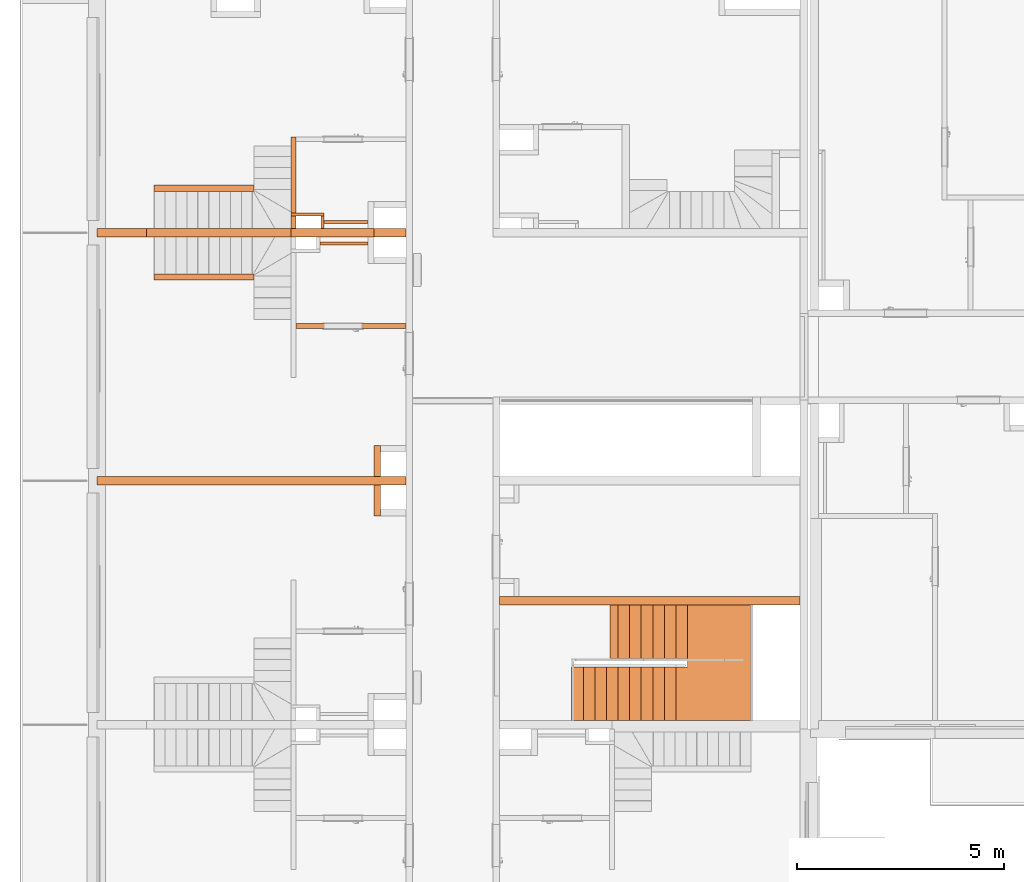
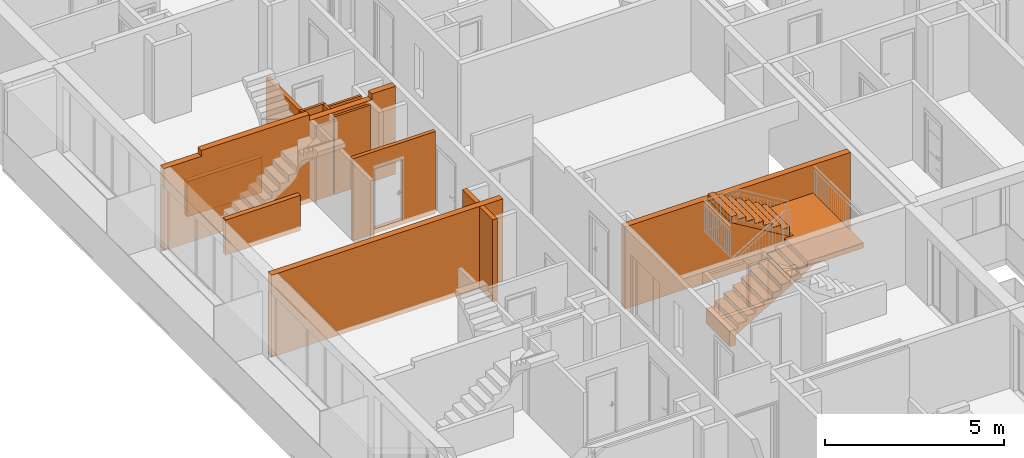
# One storey, part 48 of 61: 14 proxies, 1 opening.
"""IFC2X3 building model written with IfcOpenShell, lengths in millimetres."""

from ifc_helpers import new_model, entity, si_unit, converted_unit, derived_unit, money_unit, direction, frame, origin_with_axes, origin_2d_with_axis, place, context, subcontext, project, spatial, rectangle, extrude, faceted_brep, material, material_list, type_object, element, save


model = new_model("IFC2X3")

# Units and contexts
model_context = context("Model", 3, precision=0.01, world=origin_with_axes(), true_north=direction((0.34421633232, 0.938890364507)))
body_context = subcontext(model_context, "Body", "Model", "MODEL_VIEW")
ifc_project = project(units=[si_unit("LENGTHUNIT", "METRE", prefix="MILLI"), si_unit("AREAUNIT", "SQUARE_METRE"), si_unit("VOLUMEUNIT", "CUBIC_METRE"), converted_unit("PLANEANGLEUNIT", "DEGREE", entity("IfcPlaneAngleMeasure", 0.0174532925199), si_unit("PLANEANGLEUNIT", "RADIAN"), dimensions=[0, 0, 0, 0, 0, 0, 0]), si_unit("SOLIDANGLEUNIT", "STERADIAN"), money_unit("USD"), converted_unit("TIMEUNIT", "Year", entity("IfcTimeMeasure", 31556926.0), si_unit("TIMEUNIT", "SECOND"), dimensions=[0, 0, 1, 0, 0, 0, 0]), si_unit("MASSUNIT", "GRAM", prefix="KILO"), si_unit("THERMODYNAMICTEMPERATUREUNIT", "DEGREE_CELSIUS"), si_unit("LUMINOUSINTENSITYUNIT", "LUMEN"), si_unit("ENERGYUNIT", "JOULE", prefix="MEGA"), derived_unit("THERMALCONDUCTANCEUNIT", [(si_unit("POWERUNIT", "WATT"), 1), (si_unit("LENGTHUNIT", "METRE"), -1), (si_unit("THERMODYNAMICTEMPERATUREUNIT", "KELVIN"), -1)]), derived_unit("SPECIFICHEATCAPACITYUNIT", [(si_unit("ENERGYUNIT", "JOULE"), 1), (si_unit("MASSUNIT", "GRAM", prefix="KILO"), -1), (si_unit("THERMODYNAMICTEMPERATUREUNIT", "KELVIN"), -1)]), derived_unit("MASSDENSITYUNIT", [(si_unit("MASSUNIT", "GRAM", prefix="KILO"), 1), (si_unit("VOLUMEUNIT", "CUBIC_METRE"), -1)])], contexts=[model_context])

# Site, building, storey
site_placement = place(None, origin_with_axes())
site = spatial("IfcSite", under=ifc_project, at=site_placement, Name="USTRONIE MORSKIE", CompositionType="ELEMENT")
building_placement = place(site_placement, origin_with_axes())
building = spatial("IfcBuilding", under=site, at=building_placement, Name="Budynek", CompositionType="ELEMENT")
storey_placement = place(building_placement, frame((0.0, 0.0, 13000.0), z_axis=(0.0, 0.0, 1.0), x_axis=(1.0, 0.0, 0.0)))
storey = spatial("IfcBuildingStorey", under=building, at=storey_placement, Name="PIĘTRO 4", CompositionType="ELEMENT", Elevation=13000.0)

# Proxy, opening
ifc_material_1 = material(Name="Bloczki silikatowe")
building_element_proxy_type_1 = type_object("IfcBuildingElementProxyType", Name="Bloczki silikatowe 120", PredefinedType="NOTDEFINED")
proxy_1_placement = place(storey_placement, frame((354717.920919, 736541.179047, -160.0), z_axis=(0.0, 0.0, 1.0), x_axis=(1.0, 0.0, 0.0)))
proxy_1 = element("IfcBuildingElementProxy", 1, at=proxy_1_placement, inside=storey, type_object=building_element_proxy_type_1, material=ifc_material_1, Name="SW-04", context=body_context, shape_type="Brep", body=[
    faceted_brep([(2720.0, -59.9999999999, 2800.0), (2720.0, 59.9999999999, 2800.0), (60.0, 59.9999999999, 2800.0), (60.0, -59.9999999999, 2800.0), (2720.0, -59.9999999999, 0.0), (2720.0, 59.9999999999, 0.0), (60.0, 59.9999999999, 0.0), (60.0, -59.9999999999, 0.0)], [[[0, 1, 2, 3]], [[1, 0, 4, 5]], [[1, 5, 6, 2]], [[7, 3, 2, 6]], [[4, 0, 3, 7]], [[5, 4, 7, 6]]]),
])
opening_placement = place(proxy_1_placement, frame((1200.0, 0.0, 160.0), z_axis=(0.0, 0.0, 1.0), x_axis=(1.0, 0.0, 0.0)))
element("IfcOpeningElement", 2, at=opening_placement, cuts=proxy_1, Name="Dw.4", context=body_context, shape_type="SweptSolid", body=[
    extrude(rectangle(XDim=920.0, YDim=2070.0, at=origin_2d_with_axis()), frame((0.0, 120.0, 1035.0), z_axis=(0.0, -1.0, 0.0), x_axis=(-1.0, 0.0, 0.0)), (0.0, 0.0, 1.0), 360.0),
    extrude(rectangle(XDim=994.0, YDim=2177.0, at=origin_2d_with_axis()), frame((0.0, 60.0000000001, 1088.5), z_axis=(0.0, -1.0, 0.0), x_axis=(-1.0, 0.0, 0.0)), (0.0, 0.0, -1.0), 120.0),
    extrude(rectangle(XDim=994.0, YDim=2177.0, at=origin_2d_with_axis()), frame((0.0, -59.9999999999, 1088.5), z_axis=(0.0, 1.0, 0.0), x_axis=(-1.0, 0.0, 0.0)), (0.0, 0.0, -1.0), 120.0),
])

# Proxies
proxy_2_placement = place(storey_placement, frame((354717.920919, 738801.202062, -160.0), z_axis=(0.0, 0.0, 1.0), x_axis=(0.0, 1.0, 0.0)))
element("IfcBuildingElementProxy", 3, at=proxy_2_placement, inside=storey, type_object=building_element_proxy_type_1, material=ifc_material_1, Name="SW-04", context=body_context, shape_type="Brep", body=[
    faceted_brep([(399.997456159, 60.0, 0.0), (399.999903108, 60.0, 2800.0), (399.999903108, -60.0, 2800.0), (399.997456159, -60.0, 0.0), (100.000096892, 60.0, 0.0), (100.000096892, 60.0, 2800.0), (99.999903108, -60.0, 2800.0), (99.999903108, -60.0, 0.0)], [[[0, 1, 2, 3]], [[4, 5, 1, 0]], [[5, 6, 2, 1]], [[3, 2, 6, 7]], [[7, 4, 0, 3]], [[7, 6, 5, 4]]]),
    faceted_brep([(2320.01614335, 60.0, 2800.0), (2260.01614335, 60.0, 2800.0), (2260.01614335, -60.0, 2800.0), (2320.01614335, -60.0, 2800.0), (479.997456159, 60.0, 2800.0), (2100.00615581, 60.0, 2800.0), (2320.01614335, 60.0, 0.0), (479.997456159, 60.0, 0.0), (479.997456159, -60.0, 2800.0), (479.997456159, -60.0, 0.0), (2320.01614335, -60.0, 0.0)], [[[0, 1, 2, 3]], [[4, 5, 1, 0, 6, 7]], [[8, 2, 1, 5, 4]], [[3, 2, 8, 9, 10]], [[3, 10, 6, 0]], [[6, 10, 9, 7]], [[9, 8, 4, 7]]]),
])
ifc_material_2 = material(Name="Beton konstrukcyjny B25")
ifc_material_3 = material(Name="Płytki podłogowe")
ifc_material_list_1 = material_list([ifc_material_2, ifc_material_2, ifc_material_2, ifc_material_3, ifc_material_3, ifc_material_3, ifc_material_3, ifc_material_3, ifc_material_3, ifc_material_3, ifc_material_3, ifc_material_3, ifc_material_3, ifc_material_3, ifc_material_3, ifc_material_3, ifc_material_3, ifc_material_3, ifc_material_3])
building_element_proxy_type_2 = type_object("IfcBuildingElementProxyType", Name="Typ schodów", PredefinedType="NOTDEFINED")
proxy_3_placement = place(storey_placement, frame((362007.920919, 727001.199022, 0.0), z_axis=(0.0, 0.0, 1.0), x_axis=(1.0, 0.0, 0.0)))
element("IfcBuildingElementProxy", 4, at=proxy_3_placement, inside=storey, type_object=building_element_proxy_type_2, material=ifc_material_list_1, Name="SCH2", context=body_context, shape_type="Brep", body=[
    faceted_brep([(1960.0, 1300.0, 1491.17647059), (1680.0, 1300.0, 1491.17647059), (1680.0, 0.0, 1491.17647059), (1960.0, 0.0, 1491.17647059), (1960.0, 1300.0, 1498.52941176), (2206.20378654, 1300.0, 1498.52941176), (1960.0, 1300.0, 1351.37609817), (1866.66666667, 1300.0, 1295.59178444), (1773.33333333, 1300.0, 1239.80747072), (1680.0, 1300.0, 1184.02315699), (1586.66666667, 1300.0, 1128.23884327), (1493.33333333, 1300.0, 1072.45452954), (1400.0, 1300.0, 1016.67021582), (1306.66666667, 1300.0, 960.885902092), (1213.33333333, 1300.0, 905.101588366), (1120.0, 1300.0, 849.317274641), (1026.66666667, 1300.0, 793.532960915), (933.333333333, 1300.0, 737.74864719), (840.0, 1300.0, 681.964333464), (746.666666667, 1300.0, 626.180019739), (653.333333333, 1300.0, 570.395706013), (560.0, 1300.0, 514.611392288), (466.666666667, 1300.0, 458.827078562), (373.333333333, 1300.0, 403.042764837), (280.0, 1300.0, 347.258451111), (186.666666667, 1300.0, 291.474137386), (93.3333333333, 1300.0, 235.68982366), (0.0, 1300.0, 179.905509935), (-93.3333333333, 1300.0, 124.121196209), (-186.666666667, 1300.0, 68.3368824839), (-280.0, 1300.0, 12.5525687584), (-360.0, 1300.0, -35.2625572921), (-360.0, 1300.0, -360.0), (-560.0, 1300.0, -360.0), (-560.0, 1300.0, -154.800372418), (-560.0, 1300.0, 152.352941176), (-280.0, 1300.0, 152.352941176), (-280.0, 1300.0, 319.705882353), (0.0, 1300.0, 319.705882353), (0.0, 1300.0, 487.058823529), (280.0, 1300.0, 487.058823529), (280.0, 1300.0, 654.411764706), (560.0, 1300.0, 654.411764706), (560.0, 1300.0, 821.764705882), (840.0, 1300.0, 821.764705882), (840.0, 1300.0, 989.117647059), (1120.0, 1300.0, 989.117647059), (1120.0, 1300.0, 1156.47058824), (1400.0, 1300.0, 1156.47058824), (1400.0, 1300.0, 1323.82352941), (1680.0, 1300.0, 1323.82352941), (1680.0, 0.0, 1323.82352941), (1960.0, 0.0, 1351.37609817), (2206.20378654, 0.0, 1498.52941176), (1960.0, 0.0, 1498.52941176), (1400.0, 0.0, 1323.82352941), (1400.0, 0.0, 1156.47058824), (1120.0, 0.0, 1156.47058824), (1120.0, 0.0, 989.117647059), (840.0, 0.0, 989.117647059), (840.0, 0.0, 821.764705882), (560.0, 0.0, 821.764705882), (560.0, 0.0, 654.411764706), (280.0, 0.0, 654.411764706), (280.0, 0.0, 487.058823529), (0.0, 0.0, 487.058823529), (0.0, 0.0, 319.705882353), (-280.0, 0.0, 319.705882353), (-280.0, 0.0, 152.352941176), (-560.0, 0.0, 152.352941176), (-560.0, 0.0, -154.800372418), (-560.0, 0.0, -360.0), (-360.0, 0.0, -360.0), (-360.0, 0.0, -35.2625572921), (-280.0, 0.0, 12.5525687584), (-186.666666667, 0.0, 68.3368824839), (-93.3333333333, 0.0, 124.121196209), (0.0, 0.0, 179.905509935), (93.3333333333, 0.0, 235.68982366), (186.666666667, 0.0, 291.474137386), (280.0, 0.0, 347.258451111), (373.333333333, 0.0, 403.042764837), (466.666666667, 0.0, 458.827078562), (560.0, 0.0, 514.611392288), (653.333333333, 0.0, 570.395706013), (746.666666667, 0.0, 626.180019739), (840.0, 0.0, 681.964333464), (933.333333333, 0.0, 737.74864719), (1026.66666667, 0.0, 793.532960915), (1120.0, 0.0, 849.317274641), (1213.33333333, 0.0, 905.101588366), (1306.66666667, 0.0, 960.885902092), (1400.0, 0.0, 1016.67021582), (1493.33333333, 0.0, 1072.45452954), (1586.66666667, 0.0, 1128.23884327), (1680.0, 0.0, 1184.02315699), (1773.33333333, 0.0, 1239.80747072), (1866.66666667, 0.0, 1295.59178444)], [[[0, 1, 2, 3]], [[0, 4, 5, 6, 7, 8, 9, 10, 11, 12, 13, 14, 15, 16, 17, 18, 19, 20, 21, 22, 23, 24, 25, 26, 27, 28, 29, 30, 31, 32, 33, 34, 35, 36, 37, 38, 39, 40, 41, 42, 43, 44, 45, 46, 47, 48, 49, 50, 1]], [[50, 51, 2, 1]], [[52, 53, 54, 3, 2, 51, 55, 56, 57, 58, 59, 60, 61, 62, 63, 64, 65, 66, 67, 68, 69, 70, 71, 72, 73, 74, 75, 76, 77, 78, 79, 80, 81, 82, 83, 84, 85, 86, 87, 88, 89, 90, 91, 92, 93, 94, 95, 96, 97]], [[3, 54, 4, 0]], [[53, 5, 4, 54]], [[6, 5, 53, 52, 97, 7]], [[7, 97, 96, 8]], [[8, 96, 95, 9]], [[9, 95, 94, 10]], [[10, 94, 93, 11]], [[11, 93, 92, 12]], [[12, 92, 91, 13]], [[13, 91, 90, 14]], [[14, 90, 89, 15]], [[15, 89, 88, 16]], [[16, 88, 87, 17]], [[17, 87, 86, 18]], [[18, 86, 85, 19]], [[19, 85, 84, 20]], [[20, 84, 83, 21]], [[21, 83, 82, 22]], [[22, 82, 81, 23]], [[23, 81, 80, 24]], [[24, 80, 79, 25]], [[25, 79, 78, 26]], [[26, 78, 77, 27]], [[27, 77, 76, 28]], [[28, 76, 75, 29]], [[29, 75, 74, 30]], [[30, 74, 73, 31]], [[72, 32, 31, 73]], [[72, 71, 33, 32]], [[33, 71, 70, 34]], [[69, 35, 34, 70]], [[68, 36, 35, 69]], [[36, 68, 67, 37]], [[66, 38, 37, 67]], [[38, 66, 65, 39]], [[64, 40, 39, 65]], [[40, 64, 63, 41]], [[62, 42, 41, 63]], [[42, 62, 61, 43]], [[60, 44, 43, 61]], [[44, 60, 59, 45]], [[58, 46, 45, 59]], [[46, 58, 57, 47]], [[56, 48, 47, 57]], [[48, 56, 55, 49]], [[51, 50, 49, 55]]]),
    faceted_brep([(2273.7961996, 1500.00000596, 1658.52941176), (2240.0, 1500.00000596, 1658.52941176), (2240.0, 1300.0, 1658.52941176), (1960.0, 1300.0, 1658.52941176), (1960.0, 0.0, 1658.52941176), (3760.0, 0.0, 1658.52941176), (3760.0, 2800.0, 1658.52941176), (2273.7961996, 2800.0, 1658.52941176), (2273.7961996, 1500.00000596, 1498.52941176), (2240.0, 1500.00000596, 1498.52941176), (2240.0, 1300.0, 1498.52941176), (1960.0, 1300.0, 1498.52941176), (1960.0, 0.0, 1498.52941176), (3760.0, 0.0, 1498.52941176), (3760.0, 2800.0, 1498.52941176), (2273.7961996, 2800.0, 1498.52941176)], [[[0, 1, 2, 3, 4, 5, 6, 7]], [[0, 8, 9, 1]], [[9, 10, 2, 1]], [[3, 2, 10, 11]], [[4, 3, 11, 12]], [[5, 4, 12, 13]], [[6, 5, 13, 14]], [[7, 6, 14, 15]], [[7, 15, 8, 0]], [[8, 15, 14, 13, 12, 11, 10, 9]]]),
    faceted_brep([(560.0, 1500.0, 2662.64705882), (840.0, 1500.0, 2662.64705882), (840.0, 2800.0, 2662.64705882), (560.0, 2800.0, 2662.64705882), (560.0, 1500.0, 2840.0), (360.0, 1500.0, 2840.0), (360.0, 1500.0, 2640.0), (363.989535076, 1500.0, 2640.0), (560.0, 1500.0, 2522.84668641), (653.333333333, 1500.0, 2467.06237268), (746.666666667, 1500.0, 2411.27805895), (840.0, 1500.0, 2355.49374523), (933.333333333, 1500.0, 2299.7094315), (1026.66666667, 1500.0, 2243.92511778), (1120.0, 1500.0, 2188.14080405), (1213.33333333, 1500.0, 2132.35649033), (1306.66666667, 1500.0, 2076.5721766), (1400.0, 1500.0, 2020.78786288), (1493.33333333, 1500.0, 1965.00354915), (1586.66666667, 1500.0, 1909.21923542), (1680.0, 1500.0, 1853.43492168), (1773.33333333, 1500.0, 1797.65060791), (1866.66666667, 1500.0, 1741.86629413), (1960.0, 1500.0, 1686.08198032), (2053.33333284, 1500.0, 1630.29766669), (2146.66666567, 1500.0, 1574.51335302), (2240.0, 1500.00000596, 1518.72903846), (2273.7961996, 1500.00000596, 1498.52941915), (2273.7961996, 1500.00000596, 1658.52941176), (2240.0, 1500.00000596, 1658.52941176), (2239.99999851, 1500.0, 1825.88235294), (1960.0, 1500.0, 1825.88235294), (1960.0, 1500.0, 1993.23529412), (1680.0, 1500.0, 1993.23529412), (1680.0, 1500.0, 2160.58823529), (1400.0, 1500.0, 2160.58823529), (1400.0, 1500.0, 2327.94117647), (1120.0, 1500.0, 2327.94117647), (1120.0, 1500.0, 2495.29411765), (840.0, 1500.0, 2495.29411765), (840.0, 2800.0, 2495.29411765), (560.0, 2800.0, 2522.84668641), (363.989535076, 2800.0, 2640.0), (360.0, 2800.0, 2640.0), (360.0, 2800.0, 2840.0), (560.0, 2800.0, 2840.0), (1120.0, 2800.0, 2495.29411765), (1120.0, 2800.0, 2327.94117647), (1400.0, 2800.0, 2327.94117647), (1400.0, 2800.0, 2160.58823529), (1680.0, 2800.0, 2160.58823529), (1680.0, 2800.0, 1993.23529412), (1960.0, 2800.0, 1993.23529412), (1960.0, 2800.0, 1825.88235294), (2239.99999851, 2800.0, 1825.88235294), (2240.0, 2800.0, 1658.52941176), (2273.7961996, 2800.0, 1658.52941176), (2273.7961996, 2800.0, 1498.52941915), (2240.0, 2800.0, 1518.72903846), (2146.66666567, 2800.0, 1574.51335302), (2053.33333284, 2800.0, 1630.29766669), (1960.0, 2800.0, 1686.08198032), (1866.66666667, 2800.0, 1741.86629413), (1773.33333333, 2800.0, 1797.65060791), (1680.0, 2800.0, 1853.43492168), (1586.66666667, 2800.0, 1909.21923542), (1493.33333333, 2800.0, 1965.00354915), (1400.0, 2800.0, 2020.78786288), (1306.66666667, 2800.0, 2076.5721766), (1213.33333333, 2800.0, 2132.35649033), (1120.0, 2800.0, 2188.14080405), (1026.66666667, 2800.0, 2243.92511778), (933.333333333, 2800.0, 2299.7094315), (840.0, 2800.0, 2355.49374523), (746.666666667, 2800.0, 2411.27805895), (653.333333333, 2800.0, 2467.06237268)], [[[0, 1, 2, 3]], [[0, 4, 5, 6, 7, 8, 9, 10, 11, 12, 13, 14, 15, 16, 17, 18, 19, 20, 21, 22, 23, 24, 25, 26, 27, 28, 29, 30, 31, 32, 33, 34, 35, 36, 37, 38, 39, 1]], [[39, 40, 2, 1]], [[41, 42, 43, 44, 45, 3, 2, 40, 46, 47, 48, 49, 50, 51, 52, 53, 54, 55, 56, 57, 58, 59, 60, 61, 62, 63, 64, 65, 66, 67, 68, 69, 70, 71, 72, 73, 74, 75]], [[3, 45, 4, 0]], [[4, 45, 44, 5]], [[5, 44, 43, 6]], [[43, 42, 7, 6]], [[8, 7, 42, 41, 75, 9]], [[74, 10, 9, 75]], [[73, 11, 10, 74]], [[72, 12, 11, 73]], [[71, 13, 12, 72]], [[70, 14, 13, 71]], [[69, 15, 14, 70]], [[68, 16, 15, 69]], [[67, 17, 16, 68]], [[66, 18, 17, 67]], [[65, 19, 18, 66]], [[64, 20, 19, 65]], [[63, 21, 20, 64]], [[62, 22, 21, 63]], [[61, 23, 22, 62]], [[60, 24, 23, 61]], [[59, 25, 24, 60]], [[25, 59, 58, 26]], [[57, 27, 26, 58]], [[57, 56, 28, 27]], [[28, 56, 55, 29]], [[54, 30, 29, 55]], [[53, 31, 30, 54]], [[31, 53, 52, 32]], [[51, 33, 32, 52]], [[33, 51, 50, 34]], [[49, 35, 34, 50]], [[35, 49, 48, 36]], [[47, 37, 36, 48]], [[37, 47, 46, 38]], [[40, 39, 38, 46]]]),
    faceted_brep([(-560.0, 0.0, 157.352941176), (-560.0, 0.0, 167.352941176), (-560.0, 1300.0, 167.352941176), (-560.0, 1300.0, 157.352941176), (-280.0, 0.0, 157.352941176), (-280.0, 0.0, 167.352941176), (-280.0, 1300.0, 167.352941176), (-280.0, 1300.0, 157.352941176)], [[[0, 1, 2, 3]], [[4, 5, 1, 0]], [[1, 5, 6, 2]], [[3, 2, 6, 7]], [[0, 3, 7, 4]], [[7, 6, 5, 4]]]),
    faceted_brep([(-280.0, 0.0, 324.705882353), (-280.0, 0.0, 334.705882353), (-280.0, 1300.0, 334.705882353), (-280.0, 1300.0, 324.705882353), (0.0, 0.0, 324.705882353), (0.0, 0.0, 334.705882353), (0.0, 1300.0, 334.705882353), (0.0, 1300.0, 324.705882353)], [[[0, 1, 2, 3]], [[4, 5, 1, 0]], [[1, 5, 6, 2]], [[3, 2, 6, 7]], [[0, 3, 7, 4]], [[7, 6, 5, 4]]]),
    faceted_brep([(0.0, 0.0, 492.058823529), (0.0, 0.0, 502.058823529), (0.0, 1300.0, 502.058823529), (0.0, 1300.0, 492.058823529), (280.0, 0.0, 492.058823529), (280.0, 0.0, 502.058823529), (280.0, 1300.0, 502.058823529), (280.0, 1300.0, 492.058823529)], [[[0, 1, 2, 3]], [[4, 5, 1, 0]], [[1, 5, 6, 2]], [[3, 2, 6, 7]], [[0, 3, 7, 4]], [[7, 6, 5, 4]]]),
    faceted_brep([(280.0, 0.0, 659.411764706), (280.0, 0.0, 669.411764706), (280.0, 1300.0, 669.411764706), (280.0, 1300.0, 659.411764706), (560.0, 0.0, 659.411764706), (560.0, 0.0, 669.411764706), (560.0, 1300.0, 669.411764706), (560.0, 1300.0, 659.411764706)], [[[0, 1, 2, 3]], [[4, 5, 1, 0]], [[1, 5, 6, 2]], [[3, 2, 6, 7]], [[0, 3, 7, 4]], [[7, 6, 5, 4]]]),
    faceted_brep([(560.0, 0.0, 826.764705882), (560.0, 0.0, 836.764705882), (560.0, 1300.0, 836.764705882), (560.0, 1300.0, 826.764705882), (840.0, 0.0, 826.764705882), (840.0, 0.0, 836.764705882), (840.0, 1300.0, 836.764705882), (840.0, 1300.0, 826.764705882)], [[[0, 1, 2, 3]], [[4, 5, 1, 0]], [[1, 5, 6, 2]], [[3, 2, 6, 7]], [[0, 3, 7, 4]], [[7, 6, 5, 4]]]),
    faceted_brep([(840.0, 0.0, 994.117647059), (840.0, 0.0, 1004.11764706), (840.0, 1300.0, 1004.11764706), (840.0, 1300.0, 994.117647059), (1120.0, 0.0, 994.117647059), (1120.0, 0.0, 1004.11764706), (1120.0, 1300.0, 1004.11764706), (1120.0, 1300.0, 994.117647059)], [[[0, 1, 2, 3]], [[4, 5, 1, 0]], [[1, 5, 6, 2]], [[3, 2, 6, 7]], [[0, 3, 7, 4]], [[7, 6, 5, 4]]]),
    faceted_brep([(1120.0, 0.0, 1161.47058824), (1120.0, 0.0, 1171.47058824), (1120.0, 1300.0, 1171.47058824), (1120.0, 1300.0, 1161.47058824), (1400.0, 0.0, 1161.47058824), (1400.0, 0.0, 1171.47058824), (1400.0, 1300.0, 1171.47058824), (1400.0, 1300.0, 1161.47058824)], [[[0, 1, 2, 3]], [[4, 5, 1, 0]], [[1, 5, 6, 2]], [[3, 2, 6, 7]], [[0, 3, 7, 4]], [[7, 6, 5, 4]]]),
    faceted_brep([(1400.0, 0.0, 1328.82352941), (1400.0, 0.0, 1338.82352941), (1400.0, 1300.0, 1338.82352941), (1400.0, 1300.0, 1328.82352941), (1680.0, 0.0, 1328.82352941), (1680.0, 0.0, 1338.82352941), (1680.0, 1300.0, 1338.82352941), (1680.0, 1300.0, 1328.82352941)], [[[0, 1, 2, 3]], [[4, 5, 1, 0]], [[1, 5, 6, 2]], [[3, 2, 6, 7]], [[0, 3, 7, 4]], [[7, 6, 5, 4]]]),
    faceted_brep([(1680.0, 0.0, 1496.17647059), (1680.0, 0.0, 1506.17647059), (1680.0, 1300.0, 1506.17647059), (1680.0, 1300.0, 1496.17647059), (1960.0, 0.0, 1496.17647059), (1960.0, 0.0, 1506.17647059), (1960.0, 1300.0, 1506.17647059), (1960.0, 1300.0, 1496.17647059)], [[[0, 1, 2, 3]], [[4, 5, 1, 0]], [[1, 5, 6, 2]], [[3, 2, 6, 7]], [[0, 3, 7, 4]], [[7, 6, 5, 4]]]),
    faceted_brep([(1960.0, 0.0, 1663.52941176), (1960.0, 0.0, 1673.52941176), (1960.0, 1300.0, 1673.52941176), (1960.0, 1300.0, 1663.52941176), (2240.0, 0.0, 1663.52941176), (2240.0, 0.0, 1673.52941176), (3760.0, 0.0, 1673.52941176), (3760.0, 2800.0, 1673.52941176), (2240.0, 2800.0, 1673.52941176), (2240.0, 1500.0, 1673.52941176), (2240.0, 1300.0, 1673.52941176), (2240.0, 1300.0, 1663.52941176), (2240.0, 1500.0, 1663.52941176), (2240.0, 2800.0, 1663.52941176), (3760.0, 2800.0, 1663.52941176), (3760.0, 0.0, 1663.52941176)], [[[0, 1, 2, 3]], [[4, 5, 1, 0]], [[1, 5, 6, 7, 8, 9, 10, 2]], [[3, 2, 10, 11]], [[0, 3, 11, 12, 13, 14, 15, 4]], [[15, 6, 5, 4]], [[14, 7, 6, 15]], [[13, 8, 7, 14]], [[12, 9, 8, 13]], [[11, 10, 9, 12]]]),
    faceted_brep([(1960.0, 2800.0, 1830.88235294), (1960.0, 2800.0, 1840.88235294), (2239.99999851, 2800.0, 1840.88235294), (2239.99999851, 2800.0, 1830.88235294), (1960.0, 1500.0, 1830.88235294), (1960.0, 1500.0, 1840.88235294), (2239.99999851, 1500.0, 1840.88235294), (2239.99999851, 1500.0, 1830.88235294)], [[[0, 1, 2, 3]], [[4, 5, 1, 0]], [[1, 5, 6, 2]], [[3, 2, 6, 7]], [[0, 3, 7, 4]], [[7, 6, 5, 4]]]),
    faceted_brep([(1960.0, 2800.0, 1998.23529412), (1960.0, 2800.0, 2008.23529412), (1960.0, 1500.0, 2008.23529412), (1960.0, 1500.0, 1998.23529412), (1680.0, 2800.0, 1998.23529412), (1680.0, 2800.0, 2008.23529412), (1680.0, 1500.0, 2008.23529412), (1680.0, 1500.0, 1998.23529412)], [[[0, 1, 2, 3]], [[4, 5, 1, 0]], [[1, 5, 6, 2]], [[3, 2, 6, 7]], [[0, 3, 7, 4]], [[7, 6, 5, 4]]]),
    faceted_brep([(1680.0, 2800.0, 2165.58823529), (1680.0, 2800.0, 2175.58823529), (1680.0, 1500.0, 2175.58823529), (1680.0, 1500.0, 2165.58823529), (1400.0, 2800.0, 2165.58823529), (1400.0, 2800.0, 2175.58823529), (1400.0, 1500.0, 2175.58823529), (1400.0, 1500.0, 2165.58823529)], [[[0, 1, 2, 3]], [[4, 5, 1, 0]], [[1, 5, 6, 2]], [[3, 2, 6, 7]], [[0, 3, 7, 4]], [[7, 6, 5, 4]]]),
    faceted_brep([(1400.0, 2800.0, 2332.94117647), (1400.0, 2800.0, 2342.94117647), (1400.0, 1500.0, 2342.94117647), (1400.0, 1500.0, 2332.94117647), (1120.0, 2800.0, 2332.94117647), (1120.0, 2800.0, 2342.94117647), (1120.0, 1500.0, 2342.94117647), (1120.0, 1500.0, 2332.94117647)], [[[0, 1, 2, 3]], [[4, 5, 1, 0]], [[1, 5, 6, 2]], [[3, 2, 6, 7]], [[0, 3, 7, 4]], [[7, 6, 5, 4]]]),
    faceted_brep([(1120.0, 2800.0, 2500.29411765), (1120.0, 2800.0, 2510.29411765), (1120.0, 1500.0, 2510.29411765), (1120.0, 1500.0, 2500.29411765), (840.0, 2800.0, 2500.29411765), (840.0, 2800.0, 2510.29411765), (840.0, 1500.0, 2510.29411765), (840.0, 1500.0, 2500.29411765)], [[[0, 1, 2, 3]], [[4, 5, 1, 0]], [[1, 5, 6, 2]], [[3, 2, 6, 7]], [[0, 3, 7, 4]], [[7, 6, 5, 4]]]),
    faceted_brep([(840.0, 2800.0, 2667.64705882), (840.0, 2800.0, 2677.64705882), (840.0, 1500.0, 2677.64705882), (840.0, 1500.0, 2667.64705882), (560.0, 2800.0, 2667.64705882), (560.0, 2800.0, 2677.64705882), (560.0, 1500.0, 2677.64705882), (560.0, 1500.0, 2667.64705882)], [[[0, 1, 2, 3]], [[4, 5, 1, 0]], [[1, 5, 6, 2]], [[3, 2, 6, 7]], [[0, 3, 7, 4]], [[7, 6, 5, 4]]]),
])
ifc_material_4 = material(Name="-Pustka powietrzna")
ifc_material_5 = material(Name="Płyta GK")
ifc_material_list_2 = material_list([ifc_material_4, ifc_material_5, ifc_material_5])
building_element_proxy_type_3 = type_object("IfcBuildingElementProxyType", Name="330-SD GK 2-warstwy 75", PredefinedType="NOTDEFINED")
proxy_4_placement = place(storey_placement, frame((355317.920919, 738531.200389, -180.0), z_axis=(0.0, 0.0, 1.0), x_axis=(1.0, 0.0, 0.0)))
element("IfcBuildingElementProxy", 5, at=proxy_4_placement, inside=storey, type_object=building_element_proxy_type_3, material=ifc_material_list_2, Name="Ściana-009", context=body_context, shape_type="Brep", body=[
    faceted_brep([(1199.99909883, 0.0, 180.0), (1199.99909883, 50.0, 180.0), (1199.99909883, 50.0, 2820.0), (1199.99909883, 0.0, 2820.0), (40.0, 50.0, 180.0), (40.0, 0.0, 180.0), (40.0, 50.0, 2820.0), (40.0, 0.0, 2820.0)], [[[0, 1, 2, 3]], [[4, 1, 0, 5]], [[1, 4, 6, 2]], [[7, 3, 2, 6]], [[5, 0, 3, 7]], [[4, 5, 7, 6]]]),
    faceted_brep([(1199.99909883, -12.5, 165.0), (1199.99909883, 0.0, 165.0), (1199.99909883, 0.0, 2820.0), (1199.99909883, -12.5, 2820.0), (40.0, 0.0, 165.0), (40.0, -12.5, 165.0), (40.0, 0.0, 2820.0), (40.0, -12.5, 2820.0)], [[[0, 1, 2, 3]], [[4, 1, 0, 5]], [[1, 4, 6, 2]], [[7, 3, 2, 6]], [[5, 0, 3, 7]], [[4, 5, 7, 6]]]),
    faceted_brep([(1199.99909883, -25.0, 165.0), (1199.99909883, -12.5, 165.0), (1199.99909883, -12.5, 2820.0), (1199.99909883, -25.0, 2820.0), (40.0, -12.5, 165.0), (40.0, -25.0, 165.0), (40.0, -12.5, 2820.0), (40.0, -25.0, 2820.0)], [[[0, 1, 2, 3]], [[4, 1, 0, 5]], [[1, 4, 6, 2]], [[7, 3, 2, 6]], [[5, 0, 3, 7]], [[4, 5, 7, 6]]]),
])
ifc_material_list_3 = material_list([ifc_material_5, ifc_material_5, ifc_material_4])
proxy_5_placement = place(storey_placement, frame((355417.920919, 739071.20032, -180.0), z_axis=(0.0, 0.0, 1.0), x_axis=(1.0, 0.0, 0.0)))
element("IfcBuildingElementProxy", 6, at=proxy_5_placement, inside=storey, type_object=building_element_proxy_type_3, material=ifc_material_list_3, Name="Ściana-009", context=body_context, shape_type="Brep", body=[
    faceted_brep([(1099.99909883, 12.5, 165.0), (1099.99909883, 25.0, 165.0), (1099.99909883, 25.0, 2820.0), (1099.99909883, 12.5, 2820.0), (40.0, 25.0, 165.0), (40.0, 12.5, 165.0), (40.0, 25.0, 2820.0), (40.0, 12.5, 2820.0)], [[[0, 1, 2, 3]], [[4, 1, 0, 5]], [[1, 4, 6, 2]], [[7, 3, 2, 6]], [[5, 0, 3, 7]], [[4, 5, 7, 6]]]),
    faceted_brep([(1099.99909883, 0.0, 165.0), (1099.99909883, 12.5, 165.0), (1099.99909883, 12.5, 2820.0), (1099.99909883, 0.0, 2820.0), (40.0, 12.5, 165.0), (40.0, 0.0, 165.0), (40.0, 12.5, 2820.0), (40.0, 0.0, 2820.0)], [[[0, 1, 2, 3]], [[4, 1, 0, 5]], [[1, 4, 6, 2]], [[7, 3, 2, 6]], [[5, 0, 3, 7]], [[4, 5, 7, 6]]]),
    faceted_brep([(1099.99909883, -50.0, 180.0), (1099.99909883, 0.0, 180.0), (1099.99909883, 0.0, 2820.0), (1099.99909883, -50.0, 2820.0), (40.0, 0.0, 180.0), (40.0, -50.0, 180.0), (40.0, 0.0, 2820.0), (40.0, -50.0, 2820.0)], [[[0, 1, 2, 3]], [[4, 1, 0, 5]], [[1, 4, 6, 2]], [[7, 3, 2, 6]], [[5, 0, 3, 7]], [[4, 5, 7, 6]]]),
])
building_element_proxy_type_4 = type_object("IfcBuildingElementProxyType", Name="Bloczki silikatowe 80", PredefinedType="NOTDEFINED")
proxy_6_placement = place(storey_placement, frame((354717.920919, 739241.199519, -160.0), z_axis=(0.0, 0.0, 1.0), x_axis=(1.0, 0.0, 0.0)))
element("IfcBuildingElementProxy", 7, at=proxy_6_placement, inside=storey, type_object=building_element_proxy_type_4, material=ifc_material_1, Name="Ściana-009", context=body_context, shape_type="Brep", body=[
    faceted_brep([(740.0, 40.0, 0.0), (740.0, -40.0, 0.0), (-60.0, -40.0, 0.0), (-60.0, 40.0, 0.0), (740.0, 40.0, 2800.0), (740.0, -40.0, 2800.0), (-60.0, -40.0, 2800.0), (-60.0, 40.0, 2800.0)], [[[0, 1, 2, 3]], [[1, 0, 4, 5]], [[1, 5, 6, 2]], [[7, 3, 2, 6]], [[4, 0, 3, 7]], [[5, 4, 7, 6]]]),
])
proxy_7_placement = place(storey_placement, frame((355417.920919, 738801.19863, -160.0), z_axis=(0.0, 0.0, 1.0), x_axis=(0.0, 1.0, 0.0)))
element("IfcBuildingElementProxy", 8, at=proxy_7_placement, inside=storey, type_object=building_element_proxy_type_4, material=ifc_material_1, Name="Ściana-010", context=body_context, shape_type="Brep", body=[
    faceted_brep([(400.000888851, 40.0, 0.0), (400.000888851, -40.0, 0.0), (100.002237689, -40.0, 0.0), (100.002366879, 40.0, 0.0), (400.000888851, 40.0, 2800.0), (400.000888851, -40.0, 2800.0), (100.002237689, -40.0, 2800.0), (100.002366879, 40.0, 2800.0)], [[[0, 1, 2, 3]], [[1, 0, 4, 5]], [[1, 5, 6, 2]], [[7, 3, 2, 6]], [[4, 0, 3, 7]], [[5, 4, 7, 6]]]),
])
building_element_proxy_type_5 = type_object("IfcBuildingElementProxyType", Name="Bloczki silikatowe 150", PredefinedType="NOTDEFINED")
proxy_8_placement = place(storey_placement, frame((356817.920919, 732801.198998, -160.0), z_axis=(0.0, 0.0, 1.0), x_axis=(0.0, 1.0, 0.0)))
element("IfcBuildingElementProxy", 9, at=proxy_8_placement, inside=storey, type_object=building_element_proxy_type_5, material=ifc_material_1, Name="SW-03", context=body_context, shape_type="Brep", body=[
    faceted_brep([(850.000037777, 150.0, 0.0), (850.000037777, 0.0, 0.0), (100.000037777, 0.0, 0.0), (100.000037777, 150.0, 0.0), (850.000037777, 150.0, 2800.0), (850.000037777, 0.0, 2800.0), (100.000037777, 0.0, 2800.0), (100.000037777, 150.0, 2800.0)], [[[0, 1, 2, 3]], [[1, 0, 4, 5]], [[1, 5, 6, 2]], [[7, 3, 2, 6]], [[4, 0, 3, 7]], [[5, 4, 7, 6]]]),
])
proxy_9_placement = place(storey_placement, frame((353757.920919, 737726.200332, -160.0), z_axis=(0.0, 0.0, 1.0), x_axis=(-1.0, 0.0, 0.0)))
element("IfcBuildingElementProxy", 10, at=proxy_9_placement, inside=storey, type_object=building_element_proxy_type_5, material=ifc_material_1, Name="SW-03", context=body_context, shape_type="Brep", body=[
    faceted_brep([(0.0, 75.0, 0.0), (2410.0, 75.0, 0.0), (2410.0, -75.0, 0.0), (0.0, -75.0, 0.0), (0.0, 75.0, 1200.0), (2410.0, 75.0, 1200.0), (2410.0, -75.0, 1200.0), (0.0, -75.0, 1200.0)], [[[0, 1, 2, 3]], [[4, 5, 1, 0]], [[2, 1, 5, 6]], [[3, 2, 6, 7]], [[4, 0, 3, 7]], [[7, 6, 5, 4]]]),
])
proxy_10_placement = place(storey_placement, frame((353757.920919, 739876.213512, -160.0), z_axis=(0.0, 0.0, 1.0), x_axis=(-1.0, 0.0, 0.0)))
element("IfcBuildingElementProxy", 11, at=proxy_10_placement, inside=storey, type_object=building_element_proxy_type_5, material=ifc_material_1, Name="SW-03", context=body_context, shape_type="Brep", body=[
    faceted_brep([(0.0, -75.0, 1200.0), (2410.0, -75.0, 1200.0), (2410.0, 75.0, 1200.0), (0.0, 75.0, 1200.0), (0.0, -75.0, 0.0), (2410.0, -75.0, 0.0), (2410.0, 75.0, 0.0), (0.0, 75.0, 0.0)], [[[0, 1, 2, 3]], [[4, 5, 1, 0]], [[2, 1, 5, 6]], [[3, 2, 6, 7]], [[4, 0, 3, 7]], [[7, 6, 5, 4]]]),
])
proxy_11_placement = place(storey_placement, frame((356817.920919, 732801.199074, -160.0), z_axis=(0.0, 0.0, 1.0), x_axis=(0.0, -1.0, 0.0)))
element("IfcBuildingElementProxy", 12, at=proxy_11_placement, inside=storey, type_object=building_element_proxy_type_5, material=ifc_material_1, Name="SW-03", context=body_context, shape_type="Brep", body=[
    faceted_brep([(850.000037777, 0.0, 0.0), (100.000037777, 0.0, 0.0), (100.000037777, 0.0, 2800.0), (850.000037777, 0.0, 2800.0), (850.000037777, -150.0, 0.0), (100.000037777, -150.0, 0.0), (100.000037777, -150.0, 2800.0), (850.000037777, -150.0, 2800.0)], [[[0, 1, 2, 3]], [[4, 5, 1, 0]], [[5, 6, 2, 1]], [[3, 2, 6, 7]], [[4, 0, 3, 7]], [[7, 6, 5, 4]]]),
])
building_element_proxy_type_6 = type_object("IfcBuildingElementProxyType", Name="Beton konstrukcyjny B25 200", PredefinedType="NOTDEFINED")
proxy_12_placement = place(storey_placement, frame((367067.921014, 729901.198993, -160.0), z_axis=(0.0, 0.0, 1.0), x_axis=(-1.0, 5.85191163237e-09, 0.0)))
element("IfcBuildingElementProxy", 13, at=proxy_12_placement, inside=storey, type_object=building_element_proxy_type_6, material=ifc_material_2, Name="SW-01", context=body_context, shape_type="Brep", body=[
    faceted_brep([(7370.00009428, 100.000043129, 0.0), (7370.00009545, -99.9999568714, 0.0), (100.000012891, -99.9999994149, 0.0), (100.000014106, 100.000000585, 0.0), (7370.00009428, 100.000043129, 2800.0), (7370.00009545, -99.9999568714, 2800.0), (100.000012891, -99.9999994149, 2800.0), (100.000014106, 100.000000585, 2800.0)], [[[0, 1, 2, 3]], [[1, 0, 4, 5]], [[1, 5, 6, 2]], [[7, 3, 2, 6]], [[4, 0, 3, 7]], [[5, 4, 7, 6]]]),
])
proxy_13_placement = place(storey_placement, frame((357517.920919, 738801.197541, -160.0), z_axis=(0.0, 0.0, 1.0), x_axis=(-0.999999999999, 1.61486969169e-06, 0.0)))
element("IfcBuildingElementProxy", 14, at=proxy_13_placement, inside=storey, type_object=building_element_proxy_type_6, material=ifc_material_2, Name="SW-01", context=body_context, shape_type="Brep", body=[
    faceted_brep([(2860.00016149, -99.9968397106, 2828.05429864), (6350.00016149, -99.9968397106, 2985.97284877), (6350.00016149, -99.9973403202, 2999.99999792), (2860.0001615, -100.002976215, 3000.0), (7450.00000001, -100.0, 2799.99999792), (6350.00016149, -99.9968397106, 2799.99999792), (2860.00016149, -99.9968397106, 2800.0), (2140.00016148, -99.9968397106, 2800.0), (7550.0001615, -100.0, 0.0), (7550.0001615, -100.0, 2799.99999792), (6349.99983852, 100.0030114, 2858.662612), (6349.99983852, 100.002659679, 2999.99999792), (6349.99983852, 100.001974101, 2799.99999792), (2859.99983852, 99.9970237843, 3000.0), (2859.99983852, 99.9975214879, 2800.0), (7450.00000001, 99.9999999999, 2799.99999792), (6610.3797236, 99.9999999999, 2799.99999792), (850.000739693, 99.9942756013, 2800.0), (850.001062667, -100.005204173, 2800.0), (850.001062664, -100.003493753, 2925.24263095), (80.0001614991, -100.007465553, 3000.0), (7549.99983852, 99.9999999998, 0.0), (7549.99983852, 99.9999999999, 2799.99999792), (79.9998385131, 99.9999999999, 0.0), (79.9998385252, 99.9925344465, 3000.0), (850.000739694, 99.9937778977, 3000.0), (850.001062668, -100.006222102, 3000.0), (80.0001614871, -100.0, 0.0)], [[[0, 1, 2, 3]], [[4, 5, 1, 0, 6, 7, 8, 9]], [[10, 11, 2, 1, 5, 12]], [[3, 2, 11, 13]], [[6, 0, 3, 13, 14]], [[12, 5, 4, 15, 16]], [[14, 17, 18, 7, 6]], [[7, 18, 19, 20, 8]], [[8, 21, 22, 9]], [[22, 15, 4, 9]], [[13, 11, 10, 23, 24, 25, 17, 14]], [[10, 12, 16, 23]], [[23, 16, 15, 22, 21]], [[17, 25, 26, 19, 18]], [[20, 19, 26]], [[27, 8, 20]], [[27, 23, 21, 8]], [[23, 27, 20, 24]], [[20, 26, 25, 24]]]),
])
proxy_14_placement = place(storey_placement, frame((350067.920919, 732801.199036, -160.0), z_axis=(0.0, 0.0, 1.0), x_axis=(1.0, 0.0, 0.0)))
element("IfcBuildingElementProxy", 15, at=proxy_14_placement, inside=storey, type_object=building_element_proxy_type_6, material=ifc_material_2, Name="SW-01", context=body_context, shape_type="Brep", body=[
    faceted_brep([(-100.0, -100.0, 2800.0), (7370.0, -100.0, 2800.0), (7370.0, 100.0, 2800.0), (-100.0, 100.0, 2800.0), (-100.0, -100.0, 0.0), (7370.0, -100.0, 0.0), (7370.0, 100.0, 0.0), (-100.0, 100.0, 0.0)], [[[0, 1, 2, 3]], [[4, 5, 1, 0]], [[6, 2, 1, 5]], [[3, 2, 6, 7]], [[7, 4, 0, 3]], [[7, 6, 5, 4]]]),
])

save(model, "model.ifc")
